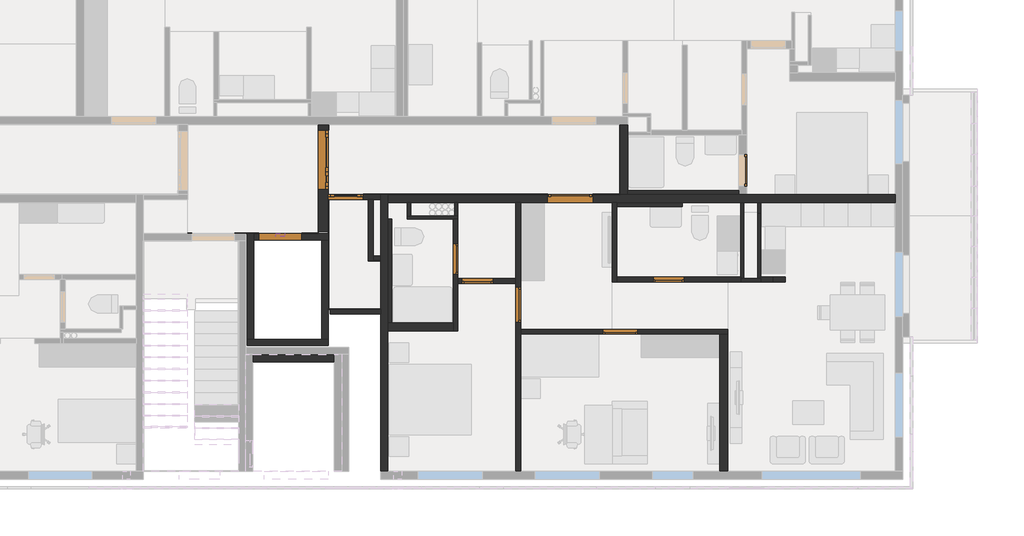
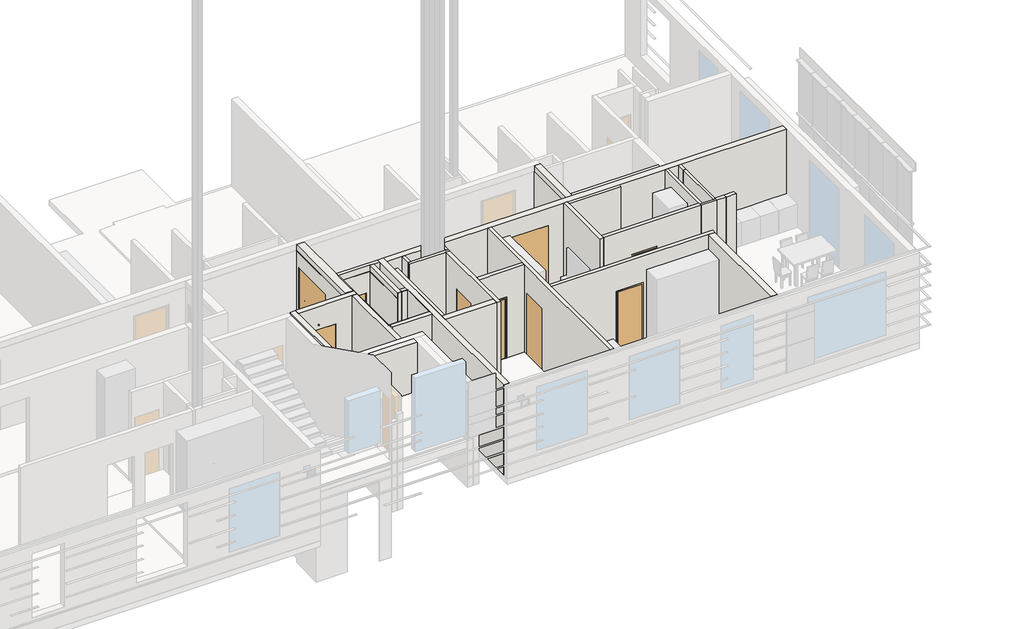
# One storey, part 8 of 14: 44 walls, 18 doors, 2 windows.
"""IFC4 building model written with IfcOpenShell, lengths in millimetres."""

from ifc_helpers import new_model, si_unit, frame, origin, place, context, project, spatial, polyline, circle_curve, outline, extrude, faceted_brep, transform, mapped, element, save
from ifc_brep_helpers import plane_surface, revolved_surface, advanced_brep
from components import door_1f93f5fc, door_b4f82bfb, door_9326eacb, door_3b0bb860, door_b8e875bd, door_673f646d, door_87123fce, door_3a59e23d, door_1132ae02, door_2b45e898, door_e21d8083, door_4950d3f7, door_92008d80, window_19e0ad27, window_6752e5d0

model = new_model("IFC4")

# Units and contexts
model_context = context("Model", 3, world=origin())
ifc_project = project(units=[si_unit("LENGTHUNIT", "METRE", prefix="MILLI")], contexts=[model_context])

# Site, building, storey
site = spatial("IfcSite", under=ifc_project)
building = spatial("IfcBuilding", under=site)
storey = spatial("IfcBuildingStorey", under=building, Name="03_+7,700_Ж", Elevation=4500.0)

# Doors
placement = place(None, origin())
door_shape = door_1f93f5fc(model_context)
element("IfcDoor", 1, ObjectType="Dr_Проем-Простой : ДВ", at=placement, inside=storey, context=model_context, shape_type="MappedRepresentation", body=[
    mapped(door_shape, transform((152651.6769838, 118599.9999987, 4500.0), x_axis=(1.0, 0.0, 0.0), y_axis=(0.0, 1.0, 0.0), z_axis=(0.0, 0.0, 1.0))),
])
door_2_shape = door_b4f82bfb(model_context)
element("IfcDoor", 2, ObjectType="Dr_Проем-Простой : ДВ", at=placement, inside=storey, context=model_context, shape_type="MappedRepresentation", body=[
    mapped(door_2_shape, transform((146525.0000001, 119384.6769824, 4500.0), x_axis=(0.0, 1.0, 0.0), y_axis=(-1.0, 0.0, 0.0), z_axis=(0.0, 0.0, 1.0))),
])
door_3_shape = door_9326eacb(model_context)
element("IfcDoor", 3, ObjectType="Dr_Проем-Простой : ДВ", at=placement, inside=storey, context=model_context, shape_type="MappedRepresentation", body=[
    mapped(door_3_shape, transform((147305.3230165, 118639.9999987, 4500.0), x_axis=(-1.0, 0.0, 0.0), y_axis=(0.0, -1.0, 0.0), z_axis=(0.0, 0.0, 1.0))),
])
door_4_shape = door_3b0bb860(model_context)
element("IfcDoor", 4, ObjectType="Dr_Проем-Простой : ДВ", at=placement, inside=storey, context=model_context, shape_type="MappedRepresentation", body=[
    mapped(door_4_shape, transform((149912.5000001, 117255.323015, 4500.0), x_axis=(0.0, -1.0, 0.0), y_axis=(1.0, 0.0, 0.0), z_axis=(0.0, 0.0, 1.0))),
])
element("IfcDoor", 5, ObjectType="Dr_Проем-Простой : ДВ", at=placement, inside=storey, context=model_context, shape_type="MappedRepresentation", body=[
    mapped(door_4_shape, transform((155580.3230165, 116527.4999987, 4500.0), x_axis=(-1.0, 0.0, 0.0), y_axis=(0.0, -1.0, 0.0), z_axis=(0.0, 0.0, 1.0))),
])
door_5_shape = door_b8e875bd(model_context)
element("IfcDoor", 6, ObjectType="Dr_Проем-Простой : ДВ", at=placement, inside=storey, context=model_context, shape_type="MappedRepresentation", body=[
    mapped(door_5_shape, transform((151517.5000001, 116080.323015, 4500.0), x_axis=(0.0, -1.0, 0.0), y_axis=(1.0, 0.0, 0.0), z_axis=(0.0, 0.0, 1.0))),
])
element("IfcDoor", 7, ObjectType="Dr_Проем-Простой : ДВ", at=placement, inside=storey, context=model_context, shape_type="MappedRepresentation", body=[
    mapped(door_5_shape, transform((154337.3230165, 115182.4999987, 4500.0), x_axis=(-1.0, 0.0, 0.0), y_axis=(0.0, -1.0, 0.0), z_axis=(0.0, 0.0, 1.0))),
])
element("IfcDoor", 8, ObjectType="Dr_Проем-Простой : ДВ", at=placement, inside=storey, context=model_context, shape_type="MappedRepresentation", body=[
    mapped(door_4_shape, transform((150680.3230165, 116487.4999987, 4500.0), x_axis=(-1.0, 0.0, 0.0), y_axis=(0.0, -1.0, 0.0), z_axis=(0.0, 0.0, 1.0))),
])
door_6_shape = door_673f646d(model_context)
element("IfcDoor", 9, ObjectType="Dr_Проем-Простой : ПР", at=placement, inside=storey, context=model_context, shape_type="MappedRepresentation", body=[
    mapped(door_6_shape, transform((145209.6769835, 117619.9999987, 4500.0), x_axis=(1.0, 0.0, 0.0), y_axis=(0.0, 1.0, 0.0), z_axis=(0.0, 0.0, 1.0))),
])
door_7_shape = door_87123fce(model_context)
element("IfcDoor", 10, ObjectType="Dr_Дверь_v2.1 : ДМ Мд1 Зв3 Оп Г Брг 21-9 Л", at=placement, inside=storey, context=model_context, shape_type="MappedRepresentation", body=[
    mapped(door_7_shape, transform((154257.0000001, 115182.4999987, 4500.0), x_axis=(-1.0, 0.0, 0.0), y_axis=(0.0, -1.0, 0.0), z_axis=(0.0, 0.0, 1.0))),
])
door_8_shape = door_3a59e23d(model_context)
element("IfcDoor", 11, ObjectType="Dr_Дверь_v2.1 : ДВПС Оп Г 24-11,5 EI30", at=placement, inside=storey, context=model_context, shape_type="MappedRepresentation", body=[
    mapped(door_8_shape, transform((152732.0000001, 118599.9999987, 4500.0), x_axis=(1.0, 0.0, 0.0), y_axis=(0.0, 1.0, 0.0), z_axis=(0.0, 0.0, 1.0))),
])
element("IfcDoor", 12, ObjectType="Dr_Дверь_v2.1 : ДМ Мд1 Зв3 Оп Г Брг 21-9 Л", at=placement, inside=storey, context=model_context, shape_type="MappedRepresentation", body=[
    mapped(door_7_shape, transform((151517.5000001, 115999.9999987, 4500.0), x_axis=(0.0, -1.0, 0.0), y_axis=(1.0, 0.0, 0.0), z_axis=(0.0, 0.0, 1.0))),
])
door_9_shape = door_1132ae02(model_context)
element("IfcDoor", 13, ObjectType="Dr_Дверь_v2.1 : ДС Мд1 Оп Г Брг 21-8", at=placement, inside=storey, context=model_context, shape_type="MappedRepresentation", body=[
    mapped(door_9_shape, transform((149912.5000001, 117174.9999987, 4500.0), x_axis=(0.0, -1.0, 0.0), y_axis=(1.0, 0.0, 0.0), z_axis=(0.0, 0.0, 1.0))),
])
element("IfcDoor", 14, ObjectType="Dr_Дверь_v2.1 : ДС Мд1 Оп Г Брг 21-8", at=placement, inside=storey, context=model_context, shape_type="MappedRepresentation", body=[
    mapped(door_9_shape, transform((155500.0000001, 116527.4999987, 4500.0), x_axis=(-1.0, 0.0, 0.0), y_axis=(0.0, -1.0, 0.0), z_axis=(0.0, 0.0, 1.0))),
])
door_10_shape = door_2b45e898(model_context)
element("IfcDoor", 15, ObjectType="Dr_Дверь_v2.1 : ДС Мд1 Зв2 Оп Г Брг 21-8 Л", at=placement, inside=storey, context=model_context, shape_type="MappedRepresentation", body=[
    mapped(door_10_shape, transform((157275.0000001, 119449.9999987, 4500.0), x_axis=(0.0, -1.0, 0.0), y_axis=(1.0, 0.0, 0.0), z_axis=(0.0, 0.0, 1.0))),
])
door_11_shape = door_e21d8083(model_context)
element("IfcDoor", 16, ObjectType="Dr_Дверь_v2.1 : ДМ Мд1 Оп Г Брг 21-8 Л", at=placement, inside=storey, context=model_context, shape_type="MappedRepresentation", body=[
    mapped(door_11_shape, transform((150600.0000001, 116487.4999987, 4500.0), x_axis=(-1.0, 0.0, 0.0), y_axis=(0.0, -1.0, 0.0), z_axis=(0.0, 0.0, 1.0))),
])
door_12_shape = door_4950d3f7(model_context)
element("IfcDoor", 17, ObjectType="Dr_Дверь_v2.1 : ДВСТД Дп Ос 23-15 EIS60", at=placement, inside=storey, context=model_context, shape_type="MappedRepresentation", body=[
    mapped(door_12_shape, transform((146525.0000001, 119464.9999987, 4500.0), x_axis=(0.0, 1.0, 0.0), y_axis=(-1.0, 0.0, 0.0), z_axis=(0.0, 0.0, 1.0))),
])
door_13_shape = door_92008d80(model_context)
element("IfcDoor", 18, ObjectType="Dr_Дверь_v2.1 : ДВСГ Брг 21-9_с вент решеткой", at=placement, inside=storey, context=model_context, shape_type="MappedRepresentation", body=[
    mapped(door_13_shape, transform((147225.0000001, 118639.9999987, 4500.0), x_axis=(-1.0, 0.0, 0.0), y_axis=(0.0, -1.0, 0.0), z_axis=(0.0, 0.0, 1.0))),
])

# Walls
element("IfcWall", 19, ObjectType="BW_SUB_SKZ_INT_80+40+80=200_Тип П7-------", at=placement, inside=storey, context=model_context, shape_type="SweptSolid", body=[
    extrude(outline(polyline([(154130.0000001, 118699.9999987), (154130.0000001, 120499.9999987), (154330.0000001, 120499.9999987), (154330.0000001, 118699.9999987), (154130.0000001, 118699.9999987)])), frame((0.0, 0.0, 4400.0), z_axis=(0.0, 0.0, 1.0), x_axis=(1.0, 0.0, 0.0)), (0.0, 0.0, 1.0), 3100.0),
])
element("IfcWall", 20, ObjectType="BW_SUB_GKL_INT_125_Тип П9.2-------", at=placement, inside=storey, context=model_context, shape_type="Brep", body=[
    faceted_brep([(154050.0000001, 116464.9999987, 4480.0), (154050.0000001, 116589.9999987, 4480.0), (154050.0000001, 118499.9999987, 4480.0), (154050.0000001, 118499.9999987, 7500.0), (154050.0000001, 116589.9999987, 7500.0), (154050.0000001, 116464.9999987, 7500.0), (153925.0000001, 116464.9999987, 4480.0), (153925.0000001, 116464.9999987, 7500.0), (153925.0000001, 118499.9999987, 7500.0), (153925.0000001, 118499.9999987, 4480.0)], [[[0, 1, 2, 3, 4, 5]], [[6, 7, 8, 9]], [[2, 1, 0, 6, 9]], [[3, 2, 9, 8]], [[5, 4, 3, 8, 7]], [[0, 5, 7, 6]]]),
])
element("IfcWall", 21, ObjectType="BW_SUB_GKL_INT_125_Тип П9.2-------", at=placement, inside=storey, context=model_context, shape_type="SweptSolid", body=[
    extrude(outline(polyline([(4480.0, 157225.0000001), (7500.0, 157225.0000001), (7500.0, 154050.0000001), (4480.0, 154050.0000001), (4480.0, 154975.0000001), (6600.0, 154975.0000001), (6600.0, 155775.0000001), (4480.0, 155775.0000001), (4480.0, 157225.0000001)])), frame((0.0, 116464.9999987, 0.0), z_axis=(0.0, 1.0, 0.0), x_axis=(0.0, 0.0, 1.0)), (0.0, 0.0, 1.0), 125.0),
])
element("IfcWall", 22, ObjectType="BW_SUB_GKL_INT_125_Тип П9.1-------", at=placement, inside=storey, context=model_context, shape_type="Brep", body=[
    faceted_brep([(151580.0000001, 118499.9999987, 4480.0), (151580.0000001, 118499.9999987, 7500.0), (151580.0000001, 115244.9999987, 7500.0), (151580.0000001, 115119.9999987, 7500.0), (151580.0000001, 111599.9999987, 7500.0), (151580.0000001, 111599.9999987, 4480.0), (151580.0000001, 115119.9999987, 4480.0), (151580.0000001, 115244.9999987, 4480.0), (151580.0000001, 115424.9999987, 4480.0), (151580.0000001, 115424.9999987, 6600.0), (151580.0000001, 116324.9999987, 6600.0), (151580.0000001, 116324.9999987, 4480.0), (151455.0000001, 118499.9999987, 7500.0), (151455.0000001, 118499.9999987, 4480.0), (151455.0000001, 116549.9999987, 4480.0), (151455.0000001, 116424.9999987, 4480.0), (151455.0000001, 116324.9999987, 4480.0), (151455.0000001, 116324.9999987, 6600.0), (151455.0000001, 115424.9999987, 6600.0), (151455.0000001, 115424.9999987, 4480.0), (151455.0000001, 111599.9999987, 4480.0), (151455.0000001, 111599.9999987, 7500.0), (151455.0000001, 116424.9999987, 7500.0), (151455.0000001, 116549.9999987, 7500.0)], [[[0, 1, 2, 3, 4, 5, 6, 7, 8, 9, 10, 11]], [[12, 13, 14, 15, 16, 17, 18, 19, 20, 21, 22, 23]], [[13, 0, 11, 16, 15, 14]], [[5, 20, 19, 8, 7, 6]], [[1, 0, 13, 12]], [[4, 3, 2, 1, 12, 23, 22, 21]], [[5, 4, 21, 20]], [[10, 17, 16, 11]], [[18, 9, 8, 19]], [[17, 10, 9, 18]]]),
])
element("IfcWall", 23, ObjectType="BW_SUB_GKL_INT_125_Тип П9.1-------", at=placement, inside=storey, context=model_context, shape_type="Brep", body=[
    faceted_brep([(151580.0000001, 115244.9999987, 7500.0), (156890.0000001, 115244.9999987, 7500.0), (156890.0000001, 115244.9999987, 4480.0), (154582.0000001, 115244.9999987, 4480.0), (154582.0000001, 115244.9999987, 6600.0), (153682.0000001, 115244.9999987, 6600.0), (153682.0000001, 115244.9999987, 4480.0), (151580.0000001, 115244.9999987, 4480.0), (156890.0000001, 115119.9999987, 7500.0), (156680.0000001, 115119.9999987, 7500.0), (151580.0000001, 115119.9999987, 7500.0), (151580.0000001, 115119.9999987, 4480.0), (153682.0000001, 115119.9999987, 4480.0), (153682.0000001, 115119.9999987, 6600.0), (154582.0000001, 115119.9999987, 6600.0), (154582.0000001, 115119.9999987, 4480.0), (156680.0000001, 115119.9999987, 4480.0), (156890.0000001, 115119.9999987, 4480.0)], [[[0, 1, 2, 3, 4, 5, 6, 7]], [[8, 9, 10, 11, 12, 13, 14, 15, 16, 17]], [[11, 7, 6, 12]], [[2, 17, 16, 15, 3]], [[1, 0, 10, 9, 8]], [[14, 4, 3, 15]], [[5, 13, 12, 6]], [[4, 14, 13, 5]], [[0, 7, 11, 10]], [[2, 1, 8, 17]]]),
])
element("IfcWall", 24, ObjectType="BW_SUB_GKL_INT_210_Тип П10.1-------", at=placement, inside=storey, context=model_context, shape_type="SweptSolid", body=[
    extrude(outline(polyline([(156890.0000001, 115119.9999987), (156890.0000001, 111599.9999987), (156680.0000001, 111599.9999987), (156680.0000001, 115119.9999987), (156890.0000001, 115119.9999987)])), frame((0.0, 0.0, 4480.0), z_axis=(0.0, 0.0, 1.0), x_axis=(1.0, 0.0, 0.0)), (0.0, 0.0, 1.0), 3020.0),
])
element("IfcWall", 25, ObjectType="BW_SUB_GKL_INT_125_Тип П9.1-------", at=placement, inside=storey, context=model_context, shape_type="SweptSolid", body=[
    extrude(outline(polyline([(7500.0, 151455.0000001), (7500.0, 149975.0000001), (4480.0, 149975.0000001), (4480.0, 150075.0000001), (6600.0, 150075.0000001), (6600.0, 150875.0000001), (4480.0, 150875.0000001), (4480.0, 151455.0000001), (7500.0, 151455.0000001)])), frame((0.0, 116424.9999987, 0.0), z_axis=(0.0, 1.0, 0.0), x_axis=(0.0, 0.0, 1.0)), (0.0, 0.0, 1.0), 125.0),
])
element("IfcWall", 26, ObjectType="BW_SUB_GKL_INT_125_Тип П9.2-------", at=placement, inside=storey, context=model_context, shape_type="Brep", body=[
    faceted_brep([(149975.0000001, 118069.9999987, 4480.0), (149975.0000001, 118069.9999987, 7500.0), (149975.0000001, 116549.9999987, 7500.0), (149975.0000001, 116424.9999987, 7500.0), (149975.0000001, 115199.9999987, 7500.0), (149975.0000001, 115199.9999987, 4480.0), (149975.0000001, 116424.9999987, 4480.0), (149975.0000001, 116549.9999987, 4480.0), (149975.0000001, 116649.9999987, 4480.0), (149975.0000001, 116649.9999987, 6600.0), (149975.0000001, 117449.9999987, 6600.0), (149975.0000001, 117449.9999987, 4480.0), (149850.0000001, 118069.9999987, 7500.0), (149850.0000001, 118069.9999987, 4480.0), (149850.0000001, 117449.9999987, 4480.0), (149850.0000001, 117449.9999987, 6600.0), (149850.0000001, 116649.9999987, 6600.0), (149850.0000001, 116649.9999987, 4480.0), (149850.0000001, 115409.9999987, 4480.0), (149850.0000001, 115199.9999987, 4480.0), (149850.0000001, 115199.9999987, 7500.0), (149850.0000001, 115409.9999987, 7500.0)], [[[0, 1, 2, 3, 4, 5, 6, 7, 8, 9, 10, 11]], [[12, 13, 14, 15, 16, 17, 18, 19, 20, 21]], [[13, 0, 11, 14]], [[5, 19, 18, 17, 8, 7, 6]], [[1, 0, 13, 12]], [[4, 3, 2, 1, 12, 21, 20]], [[10, 15, 14, 11]], [[16, 9, 8, 17]], [[15, 10, 9, 16]], [[5, 4, 20, 19]]]),
])
element("IfcWall", 27, ObjectType="BW_SUB_SKZ_INT_80_Тип П15-------", at=placement, inside=storey, context=model_context, shape_type="Brep", body=[
    faceted_brep([(149975.0000001, 118149.9999987, 4400.0), (149895.0000001, 118149.9999987, 4400.0), (148760.0000001, 118149.9999987, 4400.0), (148680.0000001, 118149.9999987, 4400.0), (148680.0000001, 118149.9999987, 7500.0), (148760.0000001, 118149.9999987, 7500.0), (149895.0000001, 118149.9999987, 7500.0), (149975.0000001, 118149.9999987, 7500.0), (149975.0000001, 118069.9999987, 4400.0), (149975.0000001, 118069.9999987, 7500.0), (148680.0000001, 118069.9999987, 7500.0), (148680.0000001, 118069.9999987, 4400.0)], [[[0, 1, 2, 3, 4, 5, 6, 7]], [[8, 9, 10, 11]], [[3, 2, 1, 0, 8, 11]], [[7, 6, 5, 4, 10, 9]], [[0, 7, 9, 8]], [[4, 3, 11, 10]]]),
])
element("IfcWall", 28, ObjectType="BW_SUB_SKZ_INT_80+20=100_Тип П12-------", at=placement, inside=storey, context=model_context, shape_type="SweptSolid", body=[
    extrude(outline(polyline([(148180.0000001, 115409.9999987), (148180.0000001, 118069.9999987), (148280.0000001, 118069.9999987), (148280.0000001, 115409.9999987), (148180.0000001, 115409.9999987)])), frame((0.0, 0.0, 4400.0), z_axis=(0.0, 0.0, 1.0), x_axis=(1.0, 0.0, 0.0)), (0.0, 0.0, 1.0), 3100.0),
])
element("IfcWall", 29, ObjectType="BW_SUB_GKL_INT_210_Тип П10.2-------", at=placement, inside=storey, context=model_context, shape_type="SweptSolid", body=[
    extrude(outline(polyline([(148180.0000001, 115409.9999987), (149850.0000001, 115409.9999987), (149850.0000001, 115199.9999987), (148180.0000001, 115199.9999987), (148180.0000001, 115409.9999987)])), frame((0.0, 0.0, 4480.0), z_axis=(0.0, 0.0, 1.0), x_axis=(1.0, 0.0, 0.0)), (0.0, 0.0, 1.0), 3020.0),
])
element("IfcWall", 30, ObjectType="BW_SUB_SKZ_INT_80_Тип П15-------", at=placement, inside=storey, context=model_context, shape_type="SweptSolid", body=[
    extrude(outline(polyline([(148680.0000001, 118149.9999987), (148680.0000001, 118499.9999987), (148760.0000001, 118499.9999987), (148760.0000001, 118149.9999987), (148680.0000001, 118149.9999987)])), frame((0.0, 0.0, 4400.0), z_axis=(0.0, 0.0, 1.0), x_axis=(1.0, 0.0, 0.0)), (0.0, 0.0, 1.0), 3100.0),
])
element("IfcWall", 31, ObjectType="BW_SUB_SKZ_INT_80_Тип П15-------", at=placement, inside=storey, context=model_context, shape_type="SweptSolid", body=[
    extrude(outline(polyline([(157735.0000001, 118209.9999987), (157735.0000001, 116544.9999987), (157655.0000001, 116544.9999987), (157655.0000001, 118209.9999987), (157735.0000001, 118209.9999987)])), frame((0.0, 0.0, 4400.0), z_axis=(0.0, 0.0, 1.0), x_axis=(1.0, 0.0, 0.0)), (0.0, 0.0, 1.0), 3100.0),
])
element("IfcWall", 32, ObjectType="BW_SUB_SKZ_INT_80_Тип П15-------", at=placement, inside=storey, context=model_context, shape_type="SweptSolid", body=[
    extrude(outline(polyline([(157225.0000001, 116544.9999987), (157225.0000001, 118499.9999987), (157305.0000001, 118499.9999987), (157305.0000001, 116544.9999987), (157225.0000001, 116544.9999987)])), frame((0.0, 0.0, 4400.0), z_axis=(0.0, 0.0, 1.0), x_axis=(1.0, 0.0, 0.0)), (0.0, 0.0, 1.0), 3100.0),
])
element("IfcWall", 33, ObjectType="BW_SUB_SKZ_INT_80+20=100_Тип П12-------", at=placement, inside=storey, context=model_context, shape_type="SweptSolid", body=[
    extrude(outline(polyline([(154330.0000001, 118799.9999987), (157170.0000001, 118799.9999987), (157170.0000001, 118699.9999987), (154330.0000001, 118699.9999987), (154330.0000001, 118799.9999987)])), frame((0.0, 0.0, 4400.0), z_axis=(0.0, 0.0, 1.0), x_axis=(1.0, 0.0, 0.0)), (0.0, 0.0, 1.0), 3100.0),
])
element("IfcWall", 34, ObjectType="BW_SUB_SKZ_INT_80+20=100_Тип П12-------", at=placement, inside=storey, context=model_context, shape_type="SweptSolid", body=[
    extrude(outline(polyline([(155725.0000001, 118399.9999987), (154050.0000001, 118399.9999987), (154050.0000001, 118499.9999987), (155725.0000001, 118499.9999987), (155725.0000001, 118399.9999987)])), frame((0.0, 0.0, 4400.0), z_axis=(0.0, 0.0, 1.0), x_axis=(1.0, 0.0, 0.0)), (0.0, 0.0, 1.0), 3100.0),
])
element("IfcWall", 35, ObjectType="BW_SUB_SKZ_INT_80_Тип П15-------", at=placement, inside=storey, context=model_context, shape_type="SweptSolid", body=[
    extrude(outline(polyline([(149895.0000001, 118149.9999987), (149895.0000001, 118499.9999987), (149975.0000001, 118499.9999987), (149975.0000001, 118149.9999987), (149895.0000001, 118149.9999987)])), frame((0.0, 0.0, 4400.0), z_axis=(0.0, 0.0, 1.0), x_axis=(1.0, 0.0, 0.0)), (0.0, 0.0, 1.0), 3100.0),
])
element("IfcWall", 36, ObjectType="BW_THR_EXT_180+10=190_Тип С4-------", at=placement, inside=storey, context=model_context, shape_type="Brep", body=[
    faceted_brep([(146810.0000001, 114409.9999987, 7700.0), (144720.0000001, 114409.9999987, 7700.0), (144720.0000001, 114409.9999987, 6000.0), (146810.0000001, 114409.9999987, 6000.0), (144720.0000001, 114599.9999987, 7700.0), (146810.0000001, 114599.9999987, 7700.0), (146810.0000001, 114599.9999987, 6000.0), (144720.0000001, 114599.9999987, 6000.0)], [[[0, 1, 2, 3]], [[4, 5, 6, 7]], [[1, 0, 5, 4]], [[1, 4, 7, 2]], [[5, 0, 3, 6]], [[3, 2, 7, 6]]]),
    faceted_brep([(144720.0000001, 114409.9999987, 4400.0), (145710.0000002, 114409.9999987, 4400.0), (146810.0000001, 114409.9999987, 4400.0), (146810.0000001, 114409.9999987, 5750.0), (144720.0000001, 114409.9999987, 5750.0), (146810.0000001, 114599.9999987, 4400.0), (145710.0000002, 114599.9999987, 4400.0), (144720.0000001, 114599.9999987, 4400.0), (144720.0000001, 114599.9999987, 5750.0), (146810.0000001, 114599.9999987, 5750.0)], [[[0, 1, 2, 3, 4]], [[5, 6, 7, 8, 9]], [[2, 1, 0, 7, 6, 5]], [[7, 0, 4, 8]], [[2, 5, 9, 3]], [[4, 3, 9, 8]]]),
])
element("IfcWall", 37, ObjectType="BW_SUB_BrF_INT_120_Тип П1-------", at=placement, inside=storey, context=model_context, shape_type="Brep", body=[
    faceted_brep([(148000.0000001, 118579.9999987, 4400.0), (148000.0000001, 118579.9999987, 7500.0), (147800.0000001, 118579.9999987, 7500.0), (147680.0000001, 118579.9999987, 7500.0), (146650.0000001, 118579.9999987, 7500.0), (146650.0000001, 118579.9999987, 7300.0), (146650.0000001, 118579.9999987, 6600.0), (147550.0000001, 118579.9999987, 6600.0), (147550.0000001, 118579.9999987, 4500.0), (147550.0000001, 118579.9999987, 4400.0), (147680.0000001, 118579.9999987, 4400.0), (147800.0000001, 118579.9999987, 4400.0), (148000.0000001, 118699.9999987, 7500.0), (148000.0000001, 118699.9999987, 4400.0), (147550.0000001, 118699.9999987, 4400.0), (147550.0000001, 118699.9999987, 4500.0), (147550.0000001, 118699.9999987, 6600.0), (146660.0000002, 118699.9999987, 6600.0), (146650.0000001, 118699.9999987, 6600.0), (146650.0000001, 118699.9999987, 7500.0)], [[[0, 1, 2, 3, 4, 5, 6, 7, 8, 9, 10, 11]], [[12, 13, 14, 15, 16, 17, 18, 19]], [[13, 0, 11, 10, 9, 14]], [[1, 0, 13, 12]], [[4, 3, 2, 1, 12, 19]], [[7, 16, 15, 14, 9, 8]], [[16, 7, 6, 18, 17]], [[4, 19, 18, 6, 5]]]),
])
element("IfcWall", 38, ObjectType="BW_SUB_BrF_INT_120_Тип П1-------", at=placement, inside=storey, context=model_context, shape_type="SweptSolid", body=[
    extrude(outline(polyline([(148000.0000001, 115639.9999987), (146700.0000002, 115639.9999987), (146700.0000002, 115759.9999987), (148000.0000001, 115759.9999987), (148000.0000001, 115639.9999987)])), frame((0.0, 0.0, 4400.0), z_axis=(0.0, 0.0, 1.0), x_axis=(1.0, 0.0, 0.0)), (0.0, 0.0, 1.0), 3100.0),
])
element("IfcWall", 39, ObjectType="BW_SUB_BrF_INT_250_Тип П2-------", at=placement, inside=storey, context=model_context, shape_type="Brep", body=[
    faceted_brep([(146650.0000001, 120499.9999987, 4400.0), (146650.0000001, 120499.9999987, 4500.0), (146650.0000001, 120499.9999987, 7300.0), (146650.0000001, 120499.9999987, 7500.0), (146650.0000001, 118699.9999987, 7500.0), (146650.0000001, 118579.9999987, 7500.0), (146650.0000001, 117749.9999987, 7500.0), (146650.0000001, 117749.9999987, 4400.0), (146650.0000001, 118824.9999987, 4400.0), (146650.0000001, 118824.9999987, 6600.0), (146650.0000001, 118824.9999987, 6800.0), (146650.0000001, 120354.9999987, 6800.0), (146650.0000001, 120354.9999987, 4500.0), (146650.0000001, 120354.9999987, 4400.0), (146400.0000001, 120499.9999987, 7500.0), (146400.0000001, 120499.9999987, 4400.0), (146400.0000001, 120354.9999987, 4400.0), (146400.0000001, 120354.9999987, 4500.0), (146400.0000001, 120354.9999987, 6800.0), (146400.0000001, 118824.9999987, 6800.0), (146400.0000001, 118824.9999987, 4500.0), (146400.0000001, 118824.9999987, 4400.0), (146400.0000001, 117749.9999987, 4400.0), (146400.0000001, 117749.9999987, 7500.0)], [[[0, 1, 2, 3, 4, 5, 6, 7, 8, 9, 10, 11, 12, 13]], [[14, 15, 16, 17, 18, 19, 20, 21, 22, 23]], [[15, 0, 13, 16]], [[7, 22, 21, 8]], [[3, 2, 1, 0, 15, 14]], [[6, 5, 4, 3, 14, 23]], [[7, 6, 23, 22]], [[19, 10, 9, 8, 21, 20]], [[11, 18, 17, 16, 13, 12]], [[10, 19, 18, 11]]]),
])
element("IfcWall", 40, ObjectType="BW_SUB_BrF_INT_120_Тип П1-------", at=placement, inside=storey, context=model_context, shape_type="Brep", body=[
    faceted_brep([(147800.0000001, 117009.9999987, 4400.0), (147800.0000001, 117129.9999987, 4400.0), (147800.0000001, 118579.9999987, 4400.0), (147800.0000001, 118579.9999987, 7500.0), (147800.0000001, 117129.9999987, 7500.0), (147800.0000001, 117009.9999987, 7500.0), (147680.0000001, 117009.9999987, 4400.0), (147680.0000001, 117009.9999987, 7500.0), (147680.0000001, 118579.9999987, 7500.0), (147680.0000001, 118579.9999987, 4400.0)], [[[0, 1, 2, 3, 4, 5]], [[6, 7, 8, 9]], [[2, 1, 0, 6, 9]], [[5, 4, 3, 8, 7]], [[0, 5, 7, 6]], [[3, 2, 9, 8]]]),
])
element("IfcWall", 41, ObjectType="BW_FN2_10_внутр отделка МОП-------", at=placement, inside=storey, context=model_context, shape_type="Brep", body=[
    faceted_brep([(146650.0000002, 118699.9999987, 7300.0), (146650.0000002, 120499.9999987, 7300.0), (146650.0000002, 120499.9999987, 4500.0), (146650.0000002, 120354.9999987, 4500.0), (146650.0000002, 120354.9999987, 6800.0), (146650.0000002, 118824.9999987, 6800.0), (146650.0000002, 118824.9999987, 6600.0), (146650.0000002, 118699.9999987, 6600.0), (146660.0000002, 120499.9999987, 7300.0), (146660.0000002, 120489.9999987, 7300.0), (146660.0000002, 118709.9999987, 7300.0), (146660.0000002, 118699.9999987, 7300.0), (146660.0000002, 118699.9999987, 6600.0), (146660.0000002, 118709.9999987, 6600.0), (146660.0000002, 118824.9999987, 6600.0), (146660.0000002, 118824.9999987, 6800.0), (146660.0000002, 120354.9999987, 6800.0), (146660.0000002, 120354.9999987, 4500.0), (146660.0000002, 120489.9999987, 4500.0), (146660.0000002, 120499.9999987, 4500.0)], [[[0, 1, 2, 3, 4, 5, 6, 7]], [[8, 9, 10, 11, 12, 13, 14, 15, 16, 17, 18, 19]], [[2, 19, 18, 17, 3]], [[1, 0, 11, 10, 9, 8]], [[2, 1, 8, 19]], [[11, 0, 7, 12]], [[5, 15, 14, 6]], [[16, 4, 3, 17]], [[15, 5, 4, 16]], [[7, 6, 14, 13, 12]]]),
])
element("IfcWall", 42, ObjectType="BW_FN2_10_внутр отделка МОП-------", at=placement, inside=storey, context=model_context, shape_type="Brep", body=[
    faceted_brep([(146660.0000002, 118709.9999987, 7300.0), (154120.0000001, 118709.9999987, 7300.0), (154130.0000001, 118709.9999987, 7300.0), (154130.0000001, 118709.9999987, 4500.0), (154120.0000001, 118709.9999987, 4500.0), (153432.0000001, 118709.9999987, 4500.0), (153432.0000001, 118709.9999987, 6900.0), (152282.0000001, 118709.9999987, 6900.0), (152282.0000001, 118709.9999987, 4500.0), (147550.0000001, 118709.9999987, 4500.0), (147550.0000001, 118709.9999987, 6600.0), (146660.0000002, 118709.9999987, 6600.0), (154130.0000001, 118699.9999987, 7300.0), (146660.0000002, 118699.9999987, 7300.0), (146660.0000002, 118699.9999987, 6600.0), (147550.0000001, 118699.9999987, 6600.0), (147550.0000001, 118699.9999987, 4500.0), (152282.0000001, 118699.9999987, 4500.0), (152282.0000001, 118699.9999987, 6900.0), (153432.0000001, 118699.9999987, 6900.0), (153432.0000001, 118699.9999987, 4500.0), (154130.0000001, 118699.9999987, 4500.0)], [[[0, 1, 2, 3, 4, 5, 6, 7, 8, 9, 10, 11]], [[12, 13, 14, 15, 16, 17, 18, 19, 20, 21]], [[3, 21, 20, 5, 4]], [[8, 17, 16, 9]], [[2, 1, 0, 13, 12]], [[3, 2, 12, 21]], [[13, 0, 11, 14]], [[7, 18, 17, 8]], [[19, 6, 5, 20]], [[18, 7, 6, 19]], [[15, 10, 9, 16]], [[10, 15, 14, 11]]]),
])
element("IfcWall", 43, ObjectType="BW_FN2_10_внутр отделка МОП-------", at=placement, inside=storey, context=model_context, shape_type="Brep", body=[
    faceted_brep([(154130.0000001, 118709.9999987, 4500.0), (154130.0000001, 120499.9999987, 4500.0), (154130.0000001, 120499.9999987, 7300.0), (154130.0000001, 118709.9999987, 7300.0), (154120.0000001, 118709.9999987, 4500.0), (154120.0000001, 118709.9999987, 7300.0), (154120.0000001, 120489.9999987, 7300.0), (154120.0000001, 120499.9999987, 7300.0), (154120.0000001, 120499.9999987, 4500.0), (154120.0000001, 120489.9999987, 4500.0)], [[[0, 1, 2, 3]], [[4, 5, 6, 7, 8, 9]], [[1, 0, 4, 9, 8]], [[3, 2, 7, 6, 5]], [[2, 1, 8, 7]], [[0, 3, 5, 4]]]),
])
element("IfcWall", 44, ObjectType="BW_FN2_10_внутр отделка МОП-------", at=placement, inside=storey, context=model_context, shape_type="Brep", body=[
    faceted_brep([(146400.0000002, 117699.9999987, 7300.0), (143055.0000002, 117699.9999987, 7300.0), (143055.0000002, 117699.9999987, 4500.0), (143150.0000001, 117699.9999987, 4500.0), (143150.0000001, 117699.9999987, 6600.0), (144250.0000001, 117699.9999987, 6600.0), (144250.0000001, 117699.9999987, 4500.0), (144864.9999999, 117699.9999987, 4500.0), (144864.9999999, 117699.9999987, 6710.0), (145964.9999999, 117699.9999987, 6710.0), (145964.9999999, 117699.9999987, 4500.0), (146400.0000002, 117699.9999987, 4500.0), (143055.0000002, 117709.9999987, 7300.0), (146390.0000002, 117709.9999987, 7300.0), (146400.0000002, 117709.9999987, 7300.0), (146400.0000002, 117709.9999987, 4500.0), (146390.0000002, 117709.9999987, 4500.0), (145964.9999999, 117709.9999987, 4500.0), (145964.9999999, 117709.9999987, 6710.0), (144864.9999999, 117709.9999987, 6710.0), (144864.9999999, 117709.9999987, 4500.0), (144250.0000001, 117709.9999987, 4500.0), (144250.0000001, 117709.9999987, 6600.0), (143150.0000001, 117709.9999987, 6600.0), (143150.0000001, 117709.9999987, 4500.0), (143055.0000002, 117709.9999987, 4500.0)], [[[0, 1, 2, 3, 4, 5, 6, 7, 8, 9, 10, 11]], [[12, 13, 14, 15, 16, 17, 18, 19, 20, 21, 22, 23, 24, 25]], [[2, 25, 24, 3]], [[15, 11, 10, 17, 16]], [[20, 7, 6, 21]], [[1, 0, 14, 13, 12]], [[2, 1, 12, 25]], [[0, 11, 15, 14]], [[19, 8, 7, 20]], [[9, 18, 17, 10]], [[8, 19, 18, 9]], [[5, 22, 21, 6]], [[23, 4, 3, 24]], [[22, 5, 4, 23]]]),
])
element("IfcWall", 45, ObjectType="BW_FN2_10_внутр отделка МОП-------", at=placement, inside=storey, context=model_context, shape_type="SweptSolid", body=[
    extrude(outline(polyline([(117709.9999987, 7300.0), (120489.9999987, 7300.0), (120489.9999987, 4500.0), (120354.9999987, 4500.0), (120354.9999987, 6800.0), (118824.9999987, 6800.0), (118824.9999987, 4500.0), (117709.9999987, 4500.0), (117709.9999987, 7300.0)])), frame((146390.0000002, 0.0, 0.0), z_axis=(1.0, 0.0, 0.0), x_axis=(0.0, 1.0, 0.0)), (0.0, 0.0, 1.0), 10.0),
])
element("IfcWall", 46, ObjectType="BW_FN2_10_внутр отделка тех.пом поэтажные-------", at=placement, inside=storey, context=model_context, shape_type="Brep", body=[
    faceted_brep([(146650.0000001, 115759.9999987, 4500.0), (147990.0000001, 115759.9999987, 4500.0), (147990.0000001, 115759.9999987, 7500.0), (146650.0000001, 115759.9999987, 7500.0), (146650.0000001, 115769.9999987, 4500.0), (146650.0000001, 115769.9999987, 7500.0), (146660.0000001, 115769.9999987, 7500.0), (147990.0000001, 115769.9999987, 7500.0), (147990.0000001, 115769.9999987, 4500.0), (146660.0000001, 115769.9999987, 4500.0)], [[[0, 1, 2, 3]], [[4, 5, 6, 7, 8, 9]], [[1, 0, 4, 9, 8]], [[3, 2, 7, 6, 5]], [[2, 1, 8, 7]], [[0, 3, 5, 4]]]),
])
element("IfcWall", 47, ObjectType="BW_FN2_10_внутр отделка тех.пом поэтажные-------", at=placement, inside=storey, context=model_context, shape_type="Brep", body=[
    faceted_brep([(146650.0000001, 118569.9999987, 4500.0), (146650.0000001, 115769.9999987, 4500.0), (146650.0000001, 115769.9999987, 7500.0), (146650.0000001, 118569.9999987, 7500.0), (146650.0000001, 118569.9999987, 7300.0), (146660.0000001, 118569.9999987, 4500.0), (146660.0000001, 118569.9999987, 7500.0), (146660.0000001, 115769.9999987, 7500.0), (146660.0000001, 115769.9999987, 4500.0)], [[[0, 1, 2, 3, 4]], [[5, 6, 7, 8]], [[1, 0, 5, 8]], [[3, 2, 7, 6]], [[2, 1, 8, 7]], [[0, 4, 3, 6, 5]]]),
])
element("IfcWall", 48, ObjectType="BW_FN2_10_внутр отделка тех.пом поэтажные-------", at=placement, inside=storey, context=model_context, shape_type="Brep", body=[
    faceted_brep([(148000.0000001, 117009.9999987, 4500.0), (147680.0000001, 117009.9999987, 4500.0), (147670.0000001, 117009.9999987, 4500.0), (147670.0000001, 117009.9999987, 7300.0), (147670.0000001, 117009.9999987, 7500.0), (147800.0000001, 117009.9999987, 7500.0), (148000.0000001, 117009.9999987, 7500.0), (148000.0000001, 116999.9999987, 4500.0), (148000.0000001, 116999.9999987, 7500.0), (147990.0000001, 116999.9999987, 7500.0), (147670.0000001, 116999.9999987, 7500.0), (147670.0000001, 116999.9999987, 4500.0), (147990.0000001, 116999.9999987, 4500.0)], [[[0, 1, 2, 3, 4, 5, 6]], [[7, 8, 9, 10, 11, 12]], [[2, 1, 0, 7, 12, 11]], [[6, 5, 4, 10, 9, 8]], [[0, 6, 8, 7]], [[4, 3, 2, 11, 10]]]),
])
element("IfcWall", 49, ObjectType="BW_FN2_10_внутр отделка тех.пом поэтажные-------", at=placement, inside=storey, context=model_context, shape_type="Brep", body=[
    faceted_brep([(148000.0000001, 115759.9999987, 4500.0), (148000.0000001, 116999.9999987, 4500.0), (148000.0000001, 116999.9999987, 7500.0), (148000.0000001, 115759.9999987, 7500.0), (147990.0000001, 115759.9999987, 4500.0), (147990.0000001, 115759.9999987, 7500.0), (147990.0000001, 115769.9999987, 7500.0), (147990.0000001, 116999.9999987, 7500.0), (147990.0000001, 116999.9999987, 4500.0), (147990.0000001, 115769.9999987, 4500.0)], [[[0, 1, 2, 3]], [[4, 5, 6, 7, 8, 9]], [[1, 0, 4, 9, 8]], [[3, 2, 7, 6, 5]], [[0, 3, 5, 4]], [[2, 1, 8, 7]]]),
])
element("IfcWall", 50, ObjectType="BW_FN2_10_внутр отделка тех.пом поэтажные-------", at=placement, inside=storey, context=model_context, shape_type="Brep", body=[
    faceted_brep([(147670.0000001, 118579.9999987, 4500.0), (147670.0000001, 118569.9999987, 4500.0), (147670.0000001, 117009.9999987, 4500.0), (147670.0000001, 117009.9999987, 7300.0), (147670.0000001, 118569.9999987, 7300.0), (147670.0000001, 118579.9999987, 7300.0), (147680.0000001, 118579.9999987, 4500.0), (147680.0000001, 118579.9999987, 7300.0), (147680.0000001, 117009.9999987, 7300.0), (147680.0000001, 117009.9999987, 4500.0)], [[[0, 1, 2, 3, 4, 5]], [[6, 7, 8, 9]], [[2, 1, 0, 6, 9]], [[5, 4, 3, 8, 7]], [[0, 5, 7, 6]], [[3, 2, 9, 8]]]),
])
element("IfcWall", 51, ObjectType="BW_FN2_10_внутр отделка тех.пом поэтажные-------", at=placement, inside=storey, context=model_context, shape_type="SweptSolid", body=[
    extrude(outline(polyline([(7300.0, 147670.0000001), (7300.0, 146650.0000001), (6600.0, 146650.0000001), (6600.0, 147550.0000001), (4500.0, 147550.0000001), (4500.0, 147670.0000001), (7300.0, 147670.0000001)])), frame((0.0, 118569.9999987, 0.0), z_axis=(0.0, 1.0, 0.0), x_axis=(0.0, 0.0, 1.0)), (0.0, 0.0, 1.0), 10.0),
])
element("IfcWall", 52, ObjectType="BW_SUB_BrF_INT_120_Тип П1-------", at=placement, inside=storey, context=model_context, shape_type="Brep", body=[
    faceted_brep([(147800.0000001, 117009.9999987, 4400.0), (148000.0000001, 117009.9999987, 4400.0), (148000.0000001, 117009.9999987, 4500.0), (148000.0000001, 117009.9999987, 7500.0), (147800.0000001, 117009.9999987, 7500.0), (147800.0000001, 117129.9999987, 4400.0), (147800.0000001, 117129.9999987, 7500.0), (148000.0000001, 117129.9999987, 7500.0), (148000.0000001, 117129.9999987, 4400.0)], [[[0, 1, 2, 3, 4]], [[5, 6, 7, 8]], [[1, 0, 5, 8]], [[3, 2, 1, 8, 7]], [[4, 3, 7, 6]], [[0, 4, 6, 5]]]),
])
element("IfcWall", 53, ObjectType="BW_SUB_SKZ_INT_80_Тип П15-------", at=placement, inside=storey, context=model_context, shape_type="Brep", body=[
    faceted_brep([(157225.0000001, 116464.9999987, 4400.0), (157735.0000001, 116464.9999987, 4400.0), (157735.0000001, 116464.9999987, 7500.0), (157225.0000001, 116464.9999987, 7500.0), (157225.0000001, 116544.9999987, 4400.0), (157225.0000001, 116544.9999987, 7500.0), (157305.0000001, 116544.9999987, 7500.0), (157655.0000001, 116544.9999987, 7500.0), (157735.0000001, 116544.9999987, 7500.0), (157735.0000001, 116544.9999987, 4400.0), (157655.0000001, 116544.9999987, 4400.0), (157305.0000001, 116544.9999987, 4400.0)], [[[0, 1, 2, 3]], [[4, 5, 6, 7, 8, 9, 10, 11]], [[1, 0, 4, 11, 10, 9]], [[3, 2, 8, 7, 6, 5]], [[0, 3, 5, 4]], [[2, 1, 9, 8]]]),
])
element("IfcWall", 54, ObjectType="BW_SUB_GKL_INT_125_Тип П9.1-------", at=placement, inside=storey, context=model_context, shape_type="SweptSolid", body=[
    extrude(outline(polyline([(158037.0000001, 116464.9999987), (157735.0000001, 116464.9999987), (157735.0000001, 116589.9999987), (158037.0000001, 116589.9999987), (158037.0000001, 116464.9999987)])), frame((0.0, 0.0, 4480.0), z_axis=(0.0, 0.0, 1.0), x_axis=(1.0, 0.0, 0.0)), (0.0, 0.0, 1.0), 3020.0),
])
element("IfcWall", 55, ObjectType="BW_SUB_GKL_INT_125_Тип П9.1_огибание в торцах-------", at=placement, inside=storey, context=model_context, shape_type="SweptSolid", body=[
    extrude(outline(polyline([(158360.0000001, 116464.9999987), (158037.0000001, 116464.9999987), (158037.0000001, 116589.9999987), (158360.0000001, 116589.9999987), (158360.0000001, 116464.9999987)])), frame((0.0, 0.0, 4480.0), z_axis=(0.0, 0.0, 1.0), x_axis=(1.0, 0.0, 0.0)), (0.0, 0.0, 1.0), 3020.0),
])
element("IfcWall", 56, ObjectType="BW_SUB_SKZ_INT_80_Тип П15-------", at=placement, inside=storey, context=model_context, shape_type="SweptSolid", body=[
    extrude(outline(polyline([(157735.0000001, 118499.9999987), (157735.0000001, 118209.9999987), (157655.0000001, 118209.9999987), (157655.0000001, 118499.9999987), (157735.0000001, 118499.9999987)])), frame((0.0, 0.0, 4400.0), z_axis=(0.0, 0.0, 1.0), x_axis=(1.0, 0.0, 0.0)), (0.0, 0.0, 1.0), 3100.0),
])
element("IfcWall", 57, ObjectType="BW_STR_CIP_UP_INT_160-------", at=placement, inside=storey, context=model_context, shape_type="AdvancedBrep", body=[
    advanced_brep(
    [(144740.0000001, 117539.9999987, 4200.0), (146490.0000002, 117539.9999987, 4200.0), (146650.0000002, 117539.9999987, 4200.0), (146650.0000002, 117539.9999987, 7500.0), (146490.0000002, 117539.9999987, 7500.0), (144740.0000001, 117539.9999987, 7500.0), (144864.9999999, 117539.9999987, 4450.0), (144864.9999999, 117539.9999987, 6710.0), (145964.9999999, 117539.9999987, 6710.0), (145964.9999999, 117539.9999987, 4450.0), (146185.0000002, 117539.9999987, 5495.0), (146145.0000002, 117539.9999987, 5495.0), (145435.0000002, 117539.9999987, 6868.0), (145395.0000002, 117539.9999987, 6868.0), (146650.0000002, 117699.9999987, 4200.0), (144740.0000001, 117699.9999987, 4200.0), (144740.0000001, 117699.9999987, 7500.0), (146650.0000002, 117699.9999987, 7500.0), (145530.0000002, 117699.9999987, 6923.2622689), (145300.0000002, 117699.9999987, 6923.2622689), (145300.0000002, 117699.9999987, 6813.2622689), (145530.0000002, 117699.9999987, 6813.2622689), (146219.9999999, 117699.9999987, 5642.7622689), (146109.9999999, 117699.9999987, 5642.7622689), (146109.9999999, 117699.9999987, 5347.7622689), (146219.9999999, 117699.9999987, 5347.7622689), (144864.9999999, 117699.9999987, 6710.0), (144864.9999999, 117699.9999987, 4500.0), (144864.9999999, 117699.9999987, 4450.0), (145964.9999999, 117699.9999987, 4450.0), (145964.9999999, 117699.9999987, 4500.0), (145964.9999999, 117699.9999987, 6710.0), (146185.0000002, 117629.9999987, 5495.0), (146145.0000002, 117629.9999987, 5495.0), (145435.0000002, 117629.9999987, 6868.0), (145395.0000002, 117629.9999987, 6868.0), (145300.0000002, 117629.9999987, 6923.2622689), (145530.0000002, 117629.9999987, 6923.2622689), (145300.0000002, 117629.9999987, 6813.2622689), (145530.0000002, 117629.9999987, 6813.2622689), (146109.9999999, 117629.9999987, 5642.7622689), (146219.9999999, 117629.9999987, 5642.7622689), (146109.9999999, 117629.9999987, 5347.7622689), (146219.9999999, 117629.9999987, 5347.7622689)],
    [
        (0, 1),
        (1, 2),
        (2, 3),
        (3, 4),
        (4, 5),
        (5, 0),
        (6, 7),
        (7, 8),
        (8, 9),
        (9, 6),
        (10, 11, circle_curve(frame((146165.0000002, 117539.9999987, 5495.0), z_axis=(0.0, 1.0, 0.0), x_axis=(-1.0, 0.0, 0.0)), 20.0)),
        (11, 10, circle_curve(frame((146165.0000002, 117539.9999987, 5495.0), z_axis=(0.0, 1.0, 0.0), x_axis=(-1.0, 0.0, 0.0)), 20.0)),
        (12, 13, circle_curve(frame((145415.0000002, 117539.9999987, 6868.0), z_axis=(0.0, 1.0, 0.0), x_axis=(-1.0, 0.0, 0.0)), 20.0)),
        (13, 12, circle_curve(frame((145415.0000002, 117539.9999987, 6868.0), z_axis=(0.0, 1.0, 0.0), x_axis=(-1.0, 0.0, 0.0)), 20.0)),
        (14, 15),
        (15, 16),
        (16, 17),
        (17, 14),
        (18, 19),
        (19, 20),
        (20, 21),
        (21, 18),
        (22, 23),
        (23, 24),
        (24, 25),
        (25, 22),
        (26, 27),
        (27, 28),
        (28, 29),
        (29, 30),
        (30, 31),
        (31, 26),
        (26, 7),
        (6, 28),
        (9, 29),
        (8, 31),
        (0, 15),
        (14, 2),
        (3, 17),
        (16, 5),
        (10, 32),
        (32, 33, circle_curve(frame((146165.0000002, 117629.9999987, 5495.0), z_axis=(0.0, 1.0, 0.0), x_axis=(-1.0, 0.0, 0.0)), 20.0)),
        (33, 11),
        (33, 32, circle_curve(frame((146165.0000002, 117629.9999987, 5495.0), z_axis=(0.0, 1.0, 0.0), x_axis=(-1.0, 0.0, 0.0)), 20.0)),
        (12, 34),
        (34, 35, circle_curve(frame((145415.0000002, 117629.9999987, 6868.0), z_axis=(0.0, 1.0, 0.0), x_axis=(-1.0, 0.0, 0.0)), 20.0)),
        (35, 13),
        (35, 34, circle_curve(frame((145415.0000002, 117629.9999987, 6868.0), z_axis=(0.0, 1.0, 0.0), x_axis=(-1.0, 0.0, 0.0)), 20.0)),
        (36, 19),
        (18, 37),
        (37, 36),
        (38, 39),
        (39, 21),
        (20, 38),
        (37, 39),
        (38, 36),
        (40, 23),
        (22, 41),
        (41, 40),
        (42, 43),
        (43, 25),
        (24, 42),
        (41, 43),
        (42, 40),
    ],
    [
        plane_surface(frame((144660.0000002, 117539.9999987, 4200.0), z_axis=(0.0, -1.0, 0.0), x_axis=(1.0, 0.0, 0.0))),
        plane_surface(frame((144660.0000002, 117699.9999987, 4200.0), z_axis=(0.0, 1.0, 0.0), x_axis=(-1.0, 0.0, 0.0))),
        plane_surface(frame((144864.9999999, 117239.9999987, 6710.0), z_axis=(1.0, 0.0, 0.0), x_axis=(0.0, 1.0, 0.0))),
        plane_surface(frame((144864.9999999, 117239.9999987, 4450.0), z_axis=(0.0, 0.0, 1.0), x_axis=(0.0, 1.0, 0.0))),
        plane_surface(frame((145964.9999999, 117239.9999987, 4450.0), z_axis=(-1.0, 0.0, 0.0), x_axis=(0.0, 1.0, 0.0))),
        plane_surface(frame((145964.9999999, 117239.9999987, 6710.0), z_axis=(0.0, 0.0, -1.0), x_axis=(0.0, 1.0, 0.0))),
        plane_surface(frame((144660.0000002, 117539.9999987, 4200.0), z_axis=(0.0, 0.0, -1.0), x_axis=(0.0, 1.0, 0.0))),
        plane_surface(frame((146570.0000002, 117539.9999987, 7500.0), z_axis=(0.0, 0.0, 1.0), x_axis=(0.0, 1.0, 0.0))),
        revolved_surface(polyline([(146145.0000002, 117629.9999987, 5495.0), (146145.0000002, 117539.9999987, 5495.0)]), (146165.0000002, 117619.9999987, 5495.0), (0.0, 1.0, 0.0)),
        revolved_surface(polyline([(145395.0000002, 117629.9999987, 6868.0), (145395.0000002, 117539.9999987, 6868.0)]), (145415.0000002, 117619.9999987, 6868.0), (0.0, 1.0, 0.0)),
        plane_surface(frame((146650.0000002, 113639.9999987, 4200.0), z_axis=(1.0, 0.0, 0.0), x_axis=(0.0, 1.0, 0.0))),
        plane_surface(frame((144740.0000001, 113799.9999987, 4200.0), z_axis=(-1.0, 0.0, 0.0), x_axis=(0.0, 1.0, 0.0))),
        plane_surface(frame((145530.0000002, 117629.9999987, 6923.2622689), z_axis=(0.0, 0.0, -1.0), x_axis=(1.0, 0.0, 0.0))),
        plane_surface(frame((145530.0000002, 117629.9999987, 6813.2622689), z_axis=(0.0, 0.0, 1.0), x_axis=(-1.0, 0.0, 0.0))),
        plane_surface(frame((145300.0000002, 117629.9999987, 6923.2622689), z_axis=(0.0, 1.0, 0.0), x_axis=(0.0, 0.0, -1.0))),
        plane_surface(frame((145530.0000002, 117629.9999987, 6923.2622689), z_axis=(-1.0, 0.0, 0.0), x_axis=(0.0, 0.0, -1.0))),
        plane_surface(frame((145300.0000002, 117699.9999987, 6923.2622689), z_axis=(1.0, 0.0, 0.0), x_axis=(0.0, 0.0, -1.0))),
        plane_surface(frame((146219.9999999, 117629.9999987, 5642.7622689), z_axis=(0.0, 0.0, -1.0), x_axis=(1.0, 0.0, 0.0))),
        plane_surface(frame((146219.9999999, 117629.9999987, 5347.7622689), z_axis=(0.0, 0.0, 1.0), x_axis=(-1.0, 0.0, 0.0))),
        plane_surface(frame((146109.9999999, 117629.9999987, 5642.7622689), z_axis=(0.0, 1.0, 0.0), x_axis=(0.0, 0.0, -1.0))),
        plane_surface(frame((146219.9999999, 117629.9999987, 5642.7622689), z_axis=(-1.0, 0.0, 0.0), x_axis=(0.0, 0.0, -1.0))),
        plane_surface(frame((146109.9999999, 117699.9999987, 5642.7622689), z_axis=(1.0, 0.0, 0.0), x_axis=(0.0, 0.0, -1.0))),
    ],
    [
        (0, [[1, 2, 3, 4, 5, 6], [7, 8, 9, 10], [11, 12], [13, 14]]),
        (1, [[15, 16, 17, 18], [19, 20, 21, 22], [23, 24, 25, 26], [27, 28, 29, 30, 31, 32]]),
        (2, [[33, -7, 34, -28, -27]]),
        (3, [[-34, -10, 35, -29]]),
        (4, [[-35, -9, 36, -31, -30]]),
        (5, [[-33, -32, -36, -8]]),
        (6, [[-2, -1, 37, -15, 38]]),
        (7, [[-5, -4, 39, -17, 40]]),
        (8, [[-11, 41, 42, 43]]),
        (8, [[-12, -43, 44, -41]]),
        (9, [[-13, 45, 46, 47]]),
        (9, [[-14, -47, 48, -45]]),
        (10, [[-3, -38, -18, -39]]),
        (11, [[-6, -40, -16, -37]]),
        (12, [[49, -19, 50, 51]]),
        (13, [[52, 53, -21, 54]]),
        (14, [[-51, 55, -52, 56], [-46, -48]]),
        (15, [[-50, -22, -53, -55]]),
        (16, [[-49, -56, -54, -20]]),
        (17, [[57, -23, 58, 59]]),
        (18, [[60, 61, -25, 62]]),
        (19, [[-59, 63, -60, 64], [-42, -44]]),
        (20, [[-58, -26, -61, -63]]),
        (21, [[-57, -64, -62, -24]]),
    ],
),
])
element("IfcWall", 58, ObjectType="BW_STR_CIP_UP_INT_160-------", at=placement, inside=storey, context=model_context, shape_type="SweptSolid", body=[
    extrude(outline(polyline([(146650.0000002, 117539.9999987), (146650.0000002, 114989.9999987), (146490.0000002, 114989.9999987), (146490.0000002, 117539.9999987), (146650.0000002, 117539.9999987)])), frame((0.0, 0.0, 4200.0), z_axis=(0.0, 0.0, 1.0), x_axis=(1.0, 0.0, 0.0)), (0.0, 0.0, 1.0), 3300.0),
])
element("IfcWall", 59, ObjectType="BW_STR_CIP_UP_INT_160-------", at=placement, inside=storey, context=model_context, shape_type="Brep", body=[
    faceted_brep([(144740.0000001, 114989.9999987, 4200.0), (144740.0000001, 117539.9999987, 4200.0), (144740.0000001, 117699.9999987, 4200.0), (144740.0000001, 117699.9999987, 7500.0), (144740.0000001, 117539.9999987, 7500.0), (144740.0000001, 114989.9999987, 7500.0), (144580.0000001, 114989.9999987, 4200.0), (144580.0000001, 114989.9999987, 7500.0), (144580.0000001, 117699.9999987, 7500.0), (144580.0000001, 117699.9999987, 4200.0)], [[[0, 1, 2, 3, 4, 5]], [[6, 7, 8, 9]], [[2, 1, 0, 6, 9]], [[5, 4, 3, 8, 7]], [[3, 2, 9, 8]], [[0, 5, 7, 6]]]),
])
element("IfcWall", 60, ObjectType="BW_STR_CIP_UP_INT_160-------", at=placement, inside=storey, context=model_context, shape_type="Brep", body=[
    faceted_brep([(144580.0000001, 114829.9999987, 4200.0), (146650.0000002, 114829.9999987, 4200.0), (146650.0000002, 114829.9999987, 7500.0), (144580.0000001, 114829.9999987, 7500.0), (144580.0000001, 114989.9999987, 4200.0), (144580.0000001, 114989.9999987, 7500.0), (144740.0000001, 114989.9999987, 7500.0), (146490.0000002, 114989.9999987, 7500.0), (146650.0000002, 114989.9999987, 7500.0), (146650.0000002, 114989.9999987, 4200.0), (146490.0000002, 114989.9999987, 4200.0), (144740.0000001, 114989.9999987, 4200.0)], [[[0, 1, 2, 3]], [[4, 5, 6, 7, 8, 9, 10, 11]], [[1, 0, 4, 11, 10, 9]], [[2, 1, 9, 8]], [[3, 2, 8, 7, 6, 5]], [[0, 3, 5, 4]]]),
])
element("IfcWall", 61, ObjectType="BW_STR_CIP_UP_INT_180-------", at=placement, inside=storey, context=model_context, shape_type="Brep", body=[
    faceted_brep([(148180.0000001, 111599.9999987, 4400.0), (148180.0000001, 118699.9999987, 4400.0), (148180.0000001, 118699.9999987, 7500.0), (148180.0000001, 111599.9999987, 7500.0), (148000.0000001, 111599.9999987, 4400.0), (148000.0000001, 111599.9999987, 7500.0), (148000.0000001, 118699.9999987, 7500.0), (148000.0000001, 118699.9999987, 4400.0), (148000.0000001, 115639.9999987, 4400.0)], [[[0, 1, 2, 3]], [[4, 5, 6, 7, 8]], [[1, 0, 4, 8, 7]], [[2, 1, 7, 6]], [[3, 2, 6, 5]], [[0, 3, 5, 4]]]),
])
element("IfcWall", 62, ObjectType="BW_STR_CIP_UP_INT_200-------", at=placement, inside=storey, context=model_context, shape_type="Brep", body=[
    faceted_brep([(148180.0000001, 118699.9999987, 4400.0), (148180.0000001, 118699.9999987, 7500.0), (161180.0000001, 118699.9999987, 7500.0), (161180.0000001, 118699.9999987, 4400.0), (153432.0000001, 118699.9999987, 4400.0), (153432.0000001, 118699.9999987, 4500.0), (153432.0000001, 118699.9999987, 6900.0), (152282.0000001, 118699.9999987, 6900.0), (152282.0000001, 118699.9999987, 4500.0), (152282.0000001, 118699.9999987, 4400.0), (148180.0000001, 118499.9999987, 7500.0), (148180.0000001, 118499.9999987, 4400.0), (152282.0000001, 118499.9999987, 4400.0), (152282.0000001, 118499.9999987, 6900.0), (153432.0000001, 118499.9999987, 6900.0), (153432.0000001, 118499.9999987, 4400.0), (157225.0000001, 118499.9999987, 4400.0), (157305.0000001, 118499.9999987, 4400.0), (161180.0000001, 118499.9999987, 4400.0), (161180.0000001, 118499.9999987, 7500.0), (157305.0000001, 118499.9999987, 7500.0), (157225.0000001, 118499.9999987, 7500.0)], [[[0, 1, 2, 3, 4, 5, 6, 7, 8, 9]], [[10, 11, 12, 13, 14, 15, 16, 17, 18, 19, 20, 21]], [[11, 0, 9, 12]], [[3, 18, 17, 16, 15, 4]], [[1, 0, 11, 10]], [[2, 1, 10, 21, 20, 19]], [[7, 13, 12, 9, 8]], [[14, 6, 5, 4, 15]], [[13, 7, 6, 14]], [[3, 2, 19, 18]]]),
])

# Windows
window_shape = window_19e0ad27(model_context)
element("IfcWindow", 63, ObjectType="Wn_KR_Ниша в стене : Wn_KR_Ниша в стене", at=placement, inside=storey, context=model_context, shape_type="MappedRepresentation", body=[
    mapped(window_shape, transform((145540.0000002, 117619.9999987, 6813.2622689), x_axis=(-1.0, 0.0, 0.0), y_axis=(0.0, -1.0, 0.0), z_axis=(0.0, 0.0, 1.0))),
])
window_2_shape = window_6752e5d0(model_context)
element("IfcWindow", 64, ObjectType="Wn_KR_Ниша в стене : Wn_KR_Ниша в стене", at=placement, inside=storey, context=model_context, shape_type="MappedRepresentation", body=[
    mapped(window_2_shape, transform((146289.9999999, 117619.9999987, 5347.7622689), x_axis=(-1.0, 0.0, 0.0), y_axis=(0.0, -1.0, 0.0), z_axis=(0.0, 0.0, 1.0))),
])

save(model, "model.ifc")
